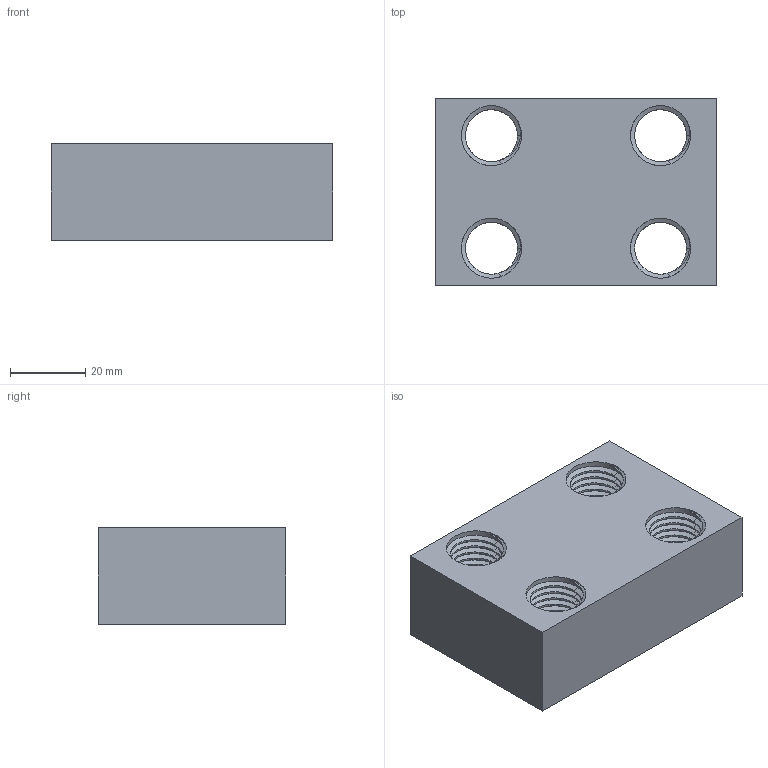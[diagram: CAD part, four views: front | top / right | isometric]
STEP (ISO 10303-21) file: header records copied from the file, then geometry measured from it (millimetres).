
FILE_DESCRIPTION(('Mechanical CAD reference from nasji.com'),'2;1');
FILE_NAME('NASJI.step','',(''),(''),'','NASJI distribution','');
FILE_SCHEMA(('AUTOMOTIVE_DESIGN { 1 0 10303 214 1 1 1 1 }'));
Products named in the file (1): Open CASCADE STEP translator 7.8 252
Bounding box: 75 x 49.9 x 25.6 mm (x, y, z)
Volume: 77996.1 mm3; surface area: 19886.8 mm2
Topology: 1 solids, 1 shells, 778 faces, 2227 edges, 1448 vertices
Faces by surface type: bspline 712, cylinder 52, plane 14
Full cylindrical faces by diameter (mm): 16 x52
Entity records: 100313 total; most frequent: CARTESIAN_POINT 68938, ORIENTED_EDGE 4448, PCURVE 4448, DEFINITIONAL_REPRESENTATION 4448, B_SPLINE_CURVE_WITH_KNOTS 4280, EDGE_CURVE 2224, SURFACE_CURVE 2216, DIRECTION 1886
